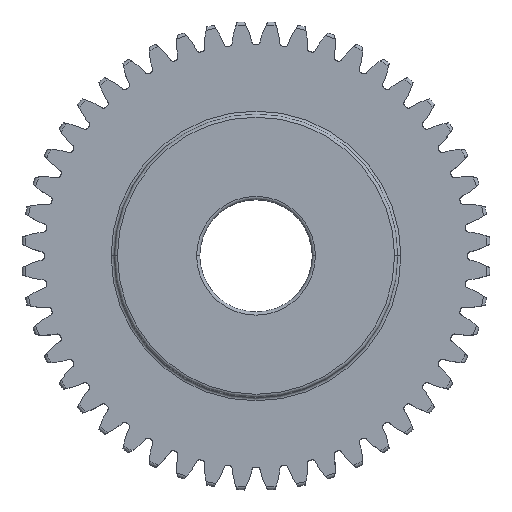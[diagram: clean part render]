
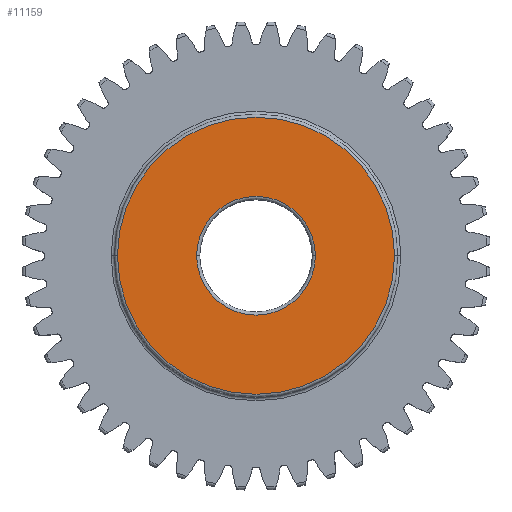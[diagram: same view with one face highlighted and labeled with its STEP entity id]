
A CAD part, top view. The second image highlights one B-rep face of the part: STEP entity #11159.
In plain terms, the highlighted planar face has unit normal (0, 0, 1).
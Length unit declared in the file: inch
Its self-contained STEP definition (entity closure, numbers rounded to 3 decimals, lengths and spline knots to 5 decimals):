
#1004 = DIRECTION ( 'NONE',  ( 0., 0., 1. ) ) ;
#1211 = ORIENTED_EDGE ( 'NONE', *, *, #11428, .T. ) ;
#1740 = DIRECTION ( 'NONE',  ( 0., 0., 1. ) ) ;
#1853 = DIRECTION ( 'NONE',  ( 1., 0., 0. ) ) ;
#1923 = CARTESIAN_POINT ( 'NONE',  ( 0., 0., 0.1875 ) ) ;
#1976 = EDGE_LOOP ( 'NONE', ( #18013, #22231 ) ) ;
#2636 = CIRCLE ( 'NONE', #6346, 0.13199 ) ;
#3243 = CARTESIAN_POINT ( 'NONE',  ( 0.13199, 0., 0.1875 ) ) ;
#4078 = VERTEX_POINT ( 'NONE', #17188 ) ;
#5199 = DIRECTION ( 'NONE',  ( 0., 0., -1. ) ) ;
#5237 = CIRCLE ( 'NONE', #18653, 0.30801 ) ;
#5507 = AXIS2_PLACEMENT_3D ( 'NONE', #23021, #5199, #19198 ) ;
#6346 = AXIS2_PLACEMENT_3D ( 'NONE', #9484, #15523, #17281 ) ;
#7352 = EDGE_LOOP ( 'NONE', ( #13897, #1211 ) ) ;
#7666 = EDGE_CURVE ( 'NONE', #22160, #4078, #11486, .T. ) ;
#8337 = VERTEX_POINT ( 'NONE', #8353 ) ;
#8353 = CARTESIAN_POINT ( 'NONE',  ( -0.13199, 0., 0.1875 ) ) ;
#9031 = DIRECTION ( 'NONE',  ( 0., 0., 1. ) ) ;
#9144 = DIRECTION ( 'NONE',  ( 1., 0., 0. ) ) ;
#9484 = CARTESIAN_POINT ( 'NONE',  ( 0., 0., 0.1875 ) ) ;
#11159 = ADVANCED_FACE ( 'NONE', ( #17309, #13583 ), #19063, .T. ) ;
#11161 = AXIS2_PLACEMENT_3D ( 'NONE', #22777, #1004, #15328 ) ;
#11428 = EDGE_CURVE ( 'NONE', #8337, #22627, #2636, .T. ) ;
#11486 = CIRCLE ( 'NONE', #15563, 0.30801 ) ;
#13583 = FACE_OUTER_BOUND ( 'NONE', #1976, .T. ) ;
#13897 = ORIENTED_EDGE ( 'NONE', *, *, #16383, .T. ) ;
#14199 = CARTESIAN_POINT ( 'NONE',  ( 0., 0., 0.1875 ) ) ;
#15328 = DIRECTION ( 'NONE',  ( 1., 0., 0. ) ) ;
#15523 = DIRECTION ( 'NONE',  ( 0., 0., -1. ) ) ;
#15563 = AXIS2_PLACEMENT_3D ( 'NONE', #1923, #9031, #9144 ) ;
#15569 = CIRCLE ( 'NONE', #5507, 0.13199 ) ;
#16383 = EDGE_CURVE ( 'NONE', #22627, #8337, #15569, .T. ) ;
#17188 = CARTESIAN_POINT ( 'NONE',  ( 0.30801, 0., 0.1875 ) ) ;
#17281 = DIRECTION ( 'NONE',  ( 1., 0., 0. ) ) ;
#17309 = FACE_BOUND ( 'NONE', #7352, .T. ) ;
#18013 = ORIENTED_EDGE ( 'NONE', *, *, #19542, .T. ) ;
#18653 = AXIS2_PLACEMENT_3D ( 'NONE', #14199, #1740, #1853 ) ;
#19063 = PLANE ( 'NONE',  #11161 ) ;
#19198 = DIRECTION ( 'NONE',  ( 1., 0., 0. ) ) ;
#19542 = EDGE_CURVE ( 'NONE', #4078, #22160, #5237, .T. ) ;
#21707 = CARTESIAN_POINT ( 'NONE',  ( -0.30801, 0., 0.1875 ) ) ;
#22160 = VERTEX_POINT ( 'NONE', #21707 ) ;
#22231 = ORIENTED_EDGE ( 'NONE', *, *, #7666, .T. ) ;
#22627 = VERTEX_POINT ( 'NONE', #3243 ) ;
#22777 = CARTESIAN_POINT ( 'NONE',  ( 0., 0., 0.1875 ) ) ;
#23021 = CARTESIAN_POINT ( 'NONE',  ( 0., 0., 0.1875 ) ) ;
